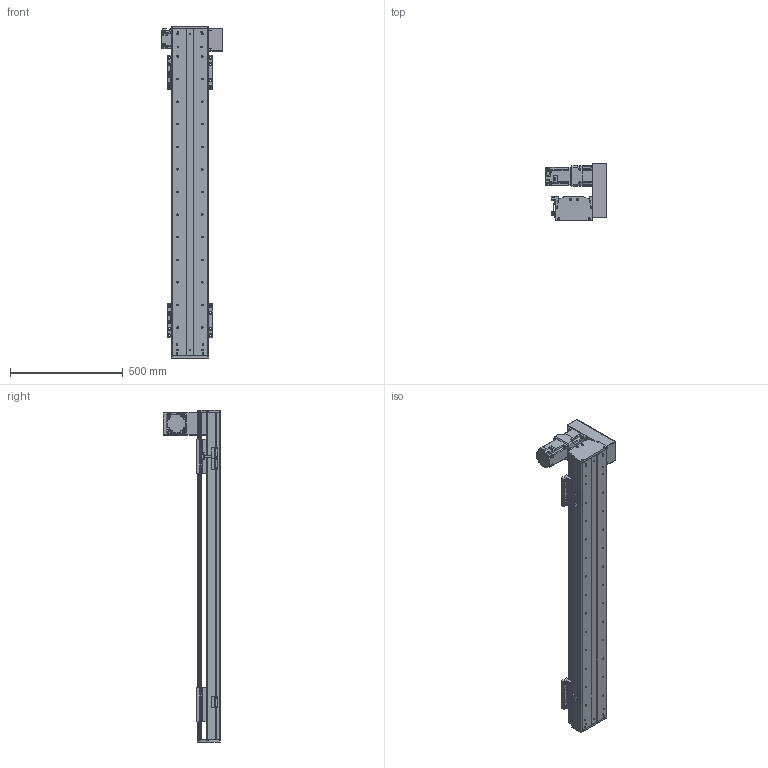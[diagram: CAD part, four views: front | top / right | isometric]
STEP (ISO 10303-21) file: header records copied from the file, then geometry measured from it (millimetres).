
FILE_DESCRIPTION(/* description */ (''),/* implementation_level */ '2;1');
FILE_NAME(/* name */ 'C:\Users\PC\Desktop\3D도면\STEP\새 폴더\DSB165-UR7G-W1100-L.stp',/* time_stamp */ '2018-06-25T15:17:59+09:00',/* author */ ('PC'),/* organization */ (''),/* preprocessor_version */ 'ST-DEVELOPER v16.5',/* originating_system */ 'Autodesk Inventor 2017',/* authorisation */ '');
FILE_SCHEMA (('AUTOMOTIVE_DESIGN { 1 0 10303 214 3 1 1 }'));
Length unit declared in the file: millimetre
Products named in the file (12): DSB165-UL7G-W1100-R_MIR; DSB165-BASE-L_MIR; hg-kr73__MIR; ab0901-p0401300102_MIR; 11-DSB165 BELT COVER_MIR; 12-DSB165-REAR COVER_MIR; 14-DSB165-FRONT COVER_MIR; DSB165-UP COVER_MIR; DSR165-SENSOR DOG_MIR; pm-y65_step_MIR; SENSOR BRACKET(EE-SX674A)_MIR; DSB165-TABLE(MSB20S)_MIR
Assembly tree (16 placements, depth 2):
  DSB165-UL7G-W1100-R_MIR
    DSB165-BASE-L_MIR
    hg-kr73__MIR
    ab0901-p0401300102_MIR
    11-DSB165 BELT COVER_MIR
    12-DSB165-REAR COVER_MIR
    14-DSB165-FRONT COVER_MIR
    DSB165-UP COVER_MIR
    DSR165-SENSOR DOG_MIR
    pm-y65_step_MIR  x3
    SENSOR BRACKET(EE-SX674A)_MIR  x3
    DSB165-TABLE(MSB20S)_MIR  x2
Bounding box: 270 x 254 x 1470 mm (x, y, z)
Volume: 9324128.9 mm3; surface area: 2161657.2 mm2
Topology: 17 solids, 17 shells, 1673 faces, 4494 edges, 2960 vertices
Faces by surface type: plane 921, cylinder 622, cone 118, sphere 8, torus 4
Full cylindrical faces by diameter (mm): 2.459 x20, 3.5 x6, 4.134 x42, 4.5 x18, 5 x27, 5.5 x36, 5.9 x4, 6 x4, 6.6 x14, 6.647 x46, 6.8 x1, 7 x4, 7.6 x4, 8.4 x1, 8.5 x24, 8.7 x1, 9.5 x32, 11 x6, 14 x16, 19 x1, 22 x1, 24 x1, 25 x1, 28 x1, 67 x1, 70 x2, 80 x1
Entity records: 36256 total; most frequent: DIRECTION 6282, CARTESIAN_POINT 6087, ORIENTED_EDGE 5546, EDGE_CURVE 2773, AXIS2_PLACEMENT_3D 2311, VERTEX_POINT 1978, EDGE_LOOP 1743, LINE 1660
